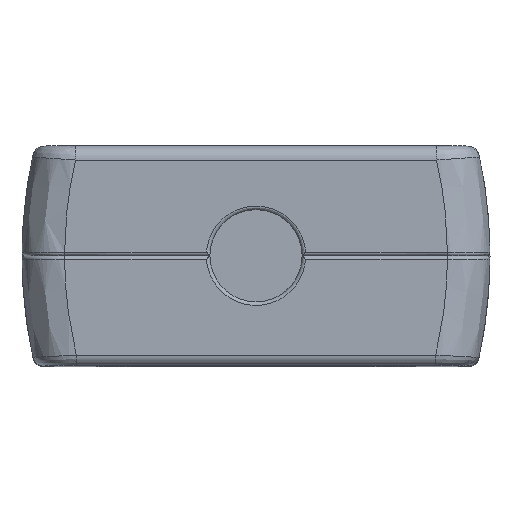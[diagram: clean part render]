
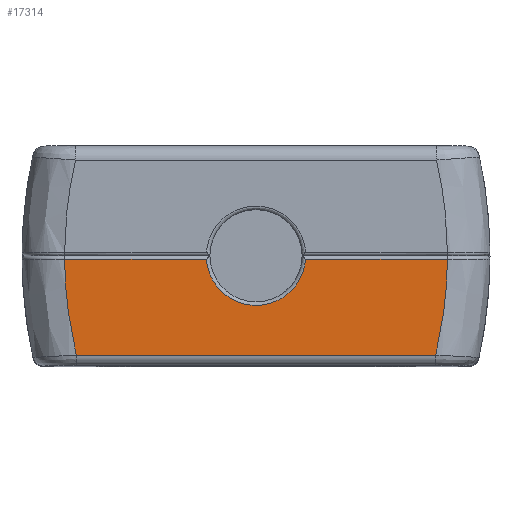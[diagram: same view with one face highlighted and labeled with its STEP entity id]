
A CAD part, top view. The second image highlights one B-rep face of the part: STEP entity #17314.
In plain terms, the highlighted planar face has unit normal (0, 0, 1).
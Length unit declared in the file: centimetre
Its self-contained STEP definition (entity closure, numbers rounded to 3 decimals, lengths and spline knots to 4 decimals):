
#1290 = FACE_OUTER_BOUND ( 'NONE', #2668, .T. ) ;
#2142 = CARTESIAN_POINT ( 'NONE',  ( 0., -0.3556, 2.54 ) ) ;
#2145 = DIRECTION ( 'NONE',  ( -1., 0., 0. ) ) ;
#2147 = CARTESIAN_POINT ( 'NONE',  ( 0.1773, -0.0127, 2.54 ) ) ;
#2148 = CARTESIAN_POINT ( 'NONE',  ( 0.1766, -0.0235, 2.54 ) ) ;
#2152 = CARTESIAN_POINT ( 'NONE',  ( 0.174, -0.0393, 2.54 ) ) ;
#2153 = CARTESIAN_POINT ( 'NONE',  ( 0.1685, -0.0572, 2.54 ) ) ;
#2154 = CARTESIAN_POINT ( 'NONE',  ( 0.1657, -0.0647, 2.54 ) ) ;
#2155 = CARTESIAN_POINT ( 'NONE',  ( 0.1636, -0.0696, 2.54 ) ) ;
#2156 = CARTESIAN_POINT ( 'NONE',  ( 0.1626, -0.0719, 2.54 ) ) ;
#2157 = CARTESIAN_POINT ( 'NONE',  ( 0.1517, -0.0957, 2.54 ) ) ;
#2158 = CARTESIAN_POINT ( 'NONE',  ( 0.1382, -0.1143, 2.54 ) ) ;
#2159 = CARTESIAN_POINT ( 'NONE',  ( 0.1126, -0.1381, 2.54 ) ) ;
#2160 = CARTESIAN_POINT ( 'NONE',  ( 0.099, -0.1485, 2.54 ) ) ;
#2161 = CARTESIAN_POINT ( 'NONE',  ( 0.0814, -0.1583, 2.54 ) ) ;
#2162 = CARTESIAN_POINT ( 'NONE',  ( 0.0736, -0.1619, 2.54 ) ) ;
#2163 = CARTESIAN_POINT ( 'NONE',  ( 0.0683, -0.1642, 2.54 ) ) ;
#2164 = CARTESIAN_POINT ( 'NONE',  ( 0.0654, -0.1654, 2.54 ) ) ;
#2165 = CARTESIAN_POINT ( 'NONE',  ( 0.0426, -0.174, 2.54 ) ) ;
#2166 = CARTESIAN_POINT ( 'NONE',  ( 0.0216, -0.1778, 2.54 ) ) ;
#2167 = CARTESIAN_POINT ( 'NONE',  ( -0.0108, -0.1778, 2.54 ) ) ;
#2168 = CARTESIAN_POINT ( 'NONE',  ( -0.0268, -0.1764, 2.54 ) ) ;
#2169 = CARTESIAN_POINT ( 'NONE',  ( -0.0449, -0.1722, 2.54 ) ) ;
#2170 = CARTESIAN_POINT ( 'NONE',  ( -0.0526, -0.1699, 2.54 ) ) ;
#2171 = CARTESIAN_POINT ( 'NONE',  ( -0.0578, -0.1682, 2.54 ) ) ;
#2172 = CARTESIAN_POINT ( 'NONE',  ( -0.0601, -0.1674, 2.54 ) ) ;
#2173 = CARTESIAN_POINT ( 'NONE',  ( -0.0846, -0.1581, 2.54 ) ) ;
#2174 = CARTESIAN_POINT ( 'NONE',  ( -0.1041, -0.146, 2.54 ) ) ;
#2175 = CARTESIAN_POINT ( 'NONE',  ( -0.1297, -0.1222, 2.54 ) ) ;
#2176 = CARTESIAN_POINT ( 'NONE',  ( -0.1411, -0.1093, 2.54 ) ) ;
#2177 = CARTESIAN_POINT ( 'NONE',  ( -0.152, -0.0925, 2.54 ) ) ;
#2178 = CARTESIAN_POINT ( 'NONE',  ( -0.1562, -0.0849, 2.54 ) ) ;
#2179 = CARTESIAN_POINT ( 'NONE',  ( -0.1589, -0.0798, 2.54 ) ) ;
#2180 = CARTESIAN_POINT ( 'NONE',  ( -0.1603, -0.077, 2.54 ) ) ;
#2181 = CARTESIAN_POINT ( 'NONE',  ( -0.1705, -0.055, 2.54 ) ) ;
#2182 = CARTESIAN_POINT ( 'NONE',  ( -0.1758, -0.0343, 2.54 ) ) ;
#2183 = CARTESIAN_POINT ( 'NONE',  ( -0.1773, -0.0127, 2.54 ) ) ;
#2341 = CARTESIAN_POINT ( 'NONE',  ( 0.6437, -0.3556, 2.54 ) ) ;
#2342 = CARTESIAN_POINT ( 'NONE',  ( 0.6708, -0.2429, 2.54 ) ) ;
#2347 = CARTESIAN_POINT ( 'NONE',  ( 0.6848, -0.1286, 2.54 ) ) ;
#2348 = CARTESIAN_POINT ( 'NONE',  ( 0.6857, -0.0127, 2.54 ) ) ;
#2392 = CARTESIAN_POINT ( 'NONE',  ( 0., -0.0127, 2.54 ) ) ;
#2393 = DIRECTION ( 'NONE',  ( -1., 0., 0. ) ) ;
#2470 = CARTESIAN_POINT ( 'NONE',  ( -0.6437, -0.3556, 2.54 ) ) ;
#2476 = CARTESIAN_POINT ( 'NONE',  ( -0.6707, -0.2431, 2.54 ) ) ;
#2487 = CARTESIAN_POINT ( 'NONE',  ( -0.6848, -0.1283, 2.54 ) ) ;
#2488 = CARTESIAN_POINT ( 'NONE',  ( -0.6857, -0.0127, 2.54 ) ) ;
#2668 = EDGE_LOOP ( 'NONE', ( #5846, #5799, #5716, #5776, #5708, #5780 ) ) ;
#4106 = VERTEX_POINT ( 'NONE', #6183 ) ;
#4142 = VERTEX_POINT ( 'NONE', #8425 ) ;
#4188 = VERTEX_POINT ( 'NONE', #17708 ) ;
#4189 = VERTEX_POINT ( 'NONE', #17709 ) ;
#4237 = VERTEX_POINT ( 'NONE', #17757 ) ;
#4360 = LINE ( 'NONE', #17035, #4362 ) ;
#4362 = VECTOR ( 'NONE', #17036, 100. ) ;
#4373 = LINE ( 'NONE', #2142, #4374 ) ;
#4374 = VECTOR ( 'NONE', #2145, 100. ) ;
#4409 = LINE ( 'NONE', #2392, #4410 ) ;
#4410 = VECTOR ( 'NONE', #2393, 100. ) ;
#5708 = ORIENTED_EDGE ( 'NONE', *, *, #5954, .F. ) ;
#5716 = ORIENTED_EDGE ( 'NONE', *, *, #5944, .T. ) ;
#5776 = ORIENTED_EDGE ( 'NONE', *, *, #6003, .F. ) ;
#5780 = ORIENTED_EDGE ( 'NONE', *, *, #5981, .T. ) ;
#5799 = ORIENTED_EDGE ( 'NONE', *, *, #5956, .T. ) ;
#5846 = ORIENTED_EDGE ( 'NONE', *, *, #5993, .T. ) ;
#5944 = EDGE_CURVE ( 'NONE', #4188, #6232, #4360, .T. ) ;
#5954 = EDGE_CURVE ( 'NONE', #4142, #4189, #4373, .T. ) ;
#5956 = EDGE_CURVE ( 'NONE', #4237, #4188, #17501, .T. ) ;
#5981 = EDGE_CURVE ( 'NONE', #4142, #4106, #17507, .T. ) ;
#5993 = EDGE_CURVE ( 'NONE', #4106, #4237, #4409, .T. ) ;
#6003 = EDGE_CURVE ( 'NONE', #4189, #6232, #17518, .T. ) ;
#6183 = CARTESIAN_POINT ( 'NONE',  ( 0.6857, -0.0127, 2.54 ) ) ;
#6232 = VERTEX_POINT ( 'NONE', #19597 ) ;
#8425 = CARTESIAN_POINT ( 'NONE',  ( 0.6437, -0.3556, 2.54 ) ) ;
#9871 = CARTESIAN_POINT ( 'NONE',  ( 0., 0., 2.54 ) ) ;
#9873 = PLANE ( 'NONE',  #16332 ) ;
#9876 = DIRECTION ( 'NONE',  ( 0., 0., 1. ) ) ;
#9877 = DIRECTION ( 'NONE',  ( 1., 0., 0. ) ) ;
#16332 = AXIS2_PLACEMENT_3D ( 'NONE', #9871, #9876, #9877 ) ;
#17035 = CARTESIAN_POINT ( 'NONE',  ( 0., -0.0127, 2.54 ) ) ;
#17036 = DIRECTION ( 'NONE',  ( -1., 0., 0. ) ) ;
#17314 = ADVANCED_FACE ( 'NONE', ( #1290 ), #9873, .T. ) ;
#17501 = B_SPLINE_CURVE_WITH_KNOTS ( 'NONE', 3,
 ( #2147, #2148, #2152, #2153, #2154, #2155, #2156, #2157, #2158, #2159, #2160, #2161, #2162, #2163, #2164, #2165, #2166, #2167, #2168, #2169, #2170, #2171, #2172, #2173, #2174, #2175, #2176, #2177, #2178, #2179, #2180, #2181, #2182, #2183 ),
 .UNSPECIFIED., .F., .F.,
 ( 4, 1, 1, 2, 2, 2, 1, 1, 2, 2, 2, 1, 1, 2, 2, 2, 1, 1, 2, 2, 4 ),
 ( 0., 0.0625, 0.0938, 0.1094, 0.125, 0.25, 0.3125, 0.3438, 0.3594, 0.375, 0.5, 0.5625, 0.5938, 0.6094, 0.625, 0.75, 0.8125, 0.8438, 0.8594, 0.875, 1. ),
 .UNSPECIFIED. ) ;
#17507 = B_SPLINE_CURVE_WITH_KNOTS ( 'NONE', 3,
 ( #2341, #2342, #2347, #2348 ),
 .UNSPECIFIED., .F., .F.,
 ( 4, 4 ),
 ( 0., 1. ),
 .UNSPECIFIED. ) ;
#17518 =( BOUNDED_CURVE ( )  B_SPLINE_CURVE ( 3, ( #2470, #2476, #2487, #2488 ),
 .UNSPECIFIED., .F., .T. ) 
 B_SPLINE_CURVE_WITH_KNOTS ( ( 4, 4 ),
 ( 0., 1. ),
 .UNSPECIFIED. ) 
 CURVE ( )  GEOMETRIC_REPRESENTATION_ITEM ( )  RATIONAL_B_SPLINE_CURVE ( ( 1., 0.996, 0.996, 1. ) ) 
 REPRESENTATION_ITEM ( '' )  );
#17708 = CARTESIAN_POINT ( 'NONE',  ( -0.1773, -0.0127, 2.54 ) ) ;
#17709 = CARTESIAN_POINT ( 'NONE',  ( -0.6437, -0.3556, 2.54 ) ) ;
#17757 = CARTESIAN_POINT ( 'NONE',  ( 0.1773, -0.0127, 2.54 ) ) ;
#19597 = CARTESIAN_POINT ( 'NONE',  ( -0.6857, -0.0127, 2.54 ) ) ;
